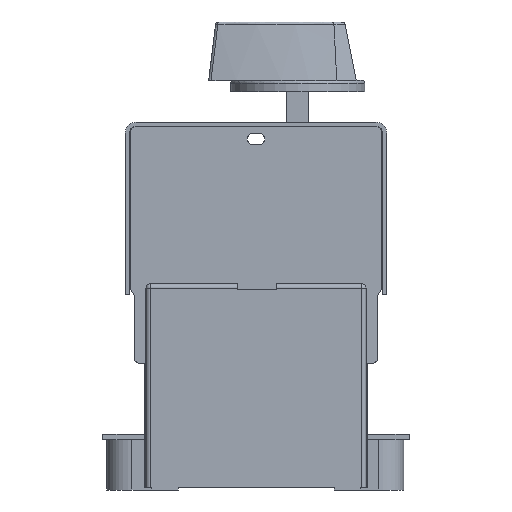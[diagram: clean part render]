
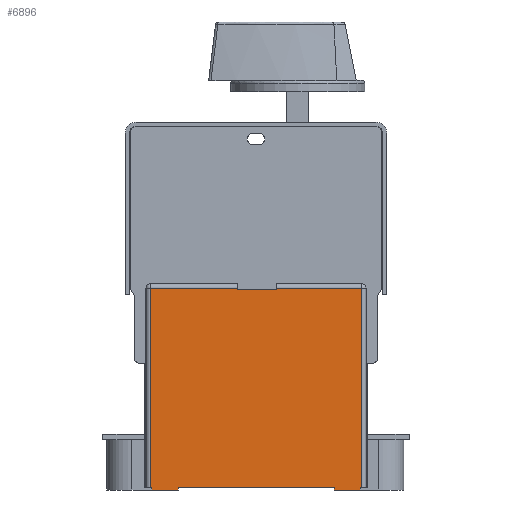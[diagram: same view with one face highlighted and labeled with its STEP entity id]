
A CAD part, left-side view. The second image highlights one B-rep face of the part: STEP entity #6896.
In plain terms, the highlighted planar face has unit normal (-1, 0, 0).
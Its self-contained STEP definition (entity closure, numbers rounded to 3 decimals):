
#738=PLANE('',#21475);
#1680=FACE_OUTER_BOUND('',#8703,.T.);
#3466=LINE('',#32194,#5560);
#3468=LINE('',#32200,#5562);
#3538=LINE('',#32512,#5632);
#3554=LINE('',#32592,#5648);
#3589=LINE('',#32691,#5683);
#3594=LINE('',#32703,#5688);
#3596=LINE('',#32706,#5690);
#3602=LINE('',#32719,#5696);
#3739=LINE('',#33003,#5833);
#3740=LINE('',#33007,#5834);
#3741=LINE('',#33008,#5835);
#3742=LINE('',#33010,#5836);
#3743=LINE('',#33012,#5837);
#3744=LINE('',#33013,#5838);
#3745=LINE('',#33014,#5839);
#3746=LINE('',#33016,#5840);
#5560=VECTOR('',#25911,1.);
#5562=VECTOR('',#25917,1.);
#5632=VECTOR('',#26205,1.);
#5648=VECTOR('',#26317,1.);
#5683=VECTOR('',#26422,1.);
#5688=VECTOR('',#26429,1.);
#5690=VECTOR('',#26433,1.);
#5696=VECTOR('',#26441,1.);
#5833=VECTOR('',#26694,1.);
#5834=VECTOR('',#26699,1.);
#5835=VECTOR('',#26700,1.);
#5836=VECTOR('',#26701,1.);
#5837=VECTOR('',#26702,1.);
#5838=VECTOR('',#26703,1.);
#5839=VECTOR('',#26704,1.);
#5840=VECTOR('',#26705,1.);
#6896=ADVANCED_FACE('',(#1680),#738,.F.);
#8703=EDGE_LOOP('',(#13824,#13825,#13826,#13827,#13828,#13829,#13830,#13831,
#13832,#13833,#13834,#13835,#13836,#13837,#13838,#13839));
#13824=ORIENTED_EDGE('',*,*,#19091,.F.);
#13825=ORIENTED_EDGE('',*,*,#18881,.T.);
#13826=ORIENTED_EDGE('',*,*,#18705,.T.);
#13827=ORIENTED_EDGE('',*,*,#19093,.F.);
#13828=ORIENTED_EDGE('',*,*,#18708,.T.);
#13829=ORIENTED_EDGE('',*,*,#18841,.T.);
#13830=ORIENTED_EDGE('',*,*,#19094,.T.);
#13831=ORIENTED_EDGE('',*,*,#19095,.T.);
#13832=ORIENTED_EDGE('',*,*,#19096,.F.);
#13833=ORIENTED_EDGE('',*,*,#18928,.F.);
#13834=ORIENTED_EDGE('',*,*,#18933,.T.);
#13835=ORIENTED_EDGE('',*,*,#19097,.T.);
#13836=ORIENTED_EDGE('',*,*,#18941,.F.);
#13837=ORIENTED_EDGE('',*,*,#18935,.F.);
#13838=ORIENTED_EDGE('',*,*,#19098,.T.);
#13839=ORIENTED_EDGE('',*,*,#19099,.T.);
#16093=VERTEX_POINT('',#32193);
#16094=VERTEX_POINT('',#32195);
#16096=VERTEX_POINT('',#32201);
#16097=VERTEX_POINT('',#32202);
#16185=VERTEX_POINT('',#32507);
#16186=VERTEX_POINT('',#32511);
#16232=VERTEX_POINT('',#32692);
#16233=VERTEX_POINT('',#32693);
#16237=VERTEX_POINT('',#32702);
#16238=VERTEX_POINT('',#32707);
#16239=VERTEX_POINT('',#32708);
#16242=VERTEX_POINT('',#32716);
#16333=VERTEX_POINT('',#33004);
#16334=VERTEX_POINT('',#33009);
#16335=VERTEX_POINT('',#33011);
#16336=VERTEX_POINT('',#33015);
#18705=EDGE_CURVE('',#16094,#16093,#3466,.T.);
#18708=EDGE_CURVE('',#16096,#16097,#3468,.T.);
#18841=EDGE_CURVE('',#16097,#16186,#3538,.T.);
#18881=EDGE_CURVE('',#16185,#16094,#3554,.T.);
#18928=EDGE_CURVE('',#16232,#16233,#3589,.T.);
#18933=EDGE_CURVE('',#16232,#16237,#3594,.T.);
#18935=EDGE_CURVE('',#16238,#16239,#3596,.T.);
#18941=EDGE_CURVE('',#16239,#16242,#3602,.T.);
#19091=EDGE_CURVE('',#16185,#16333,#3739,.T.);
#19093=EDGE_CURVE('',#16096,#16093,#3740,.T.);
#19094=EDGE_CURVE('',#16186,#16334,#3741,.T.);
#19095=EDGE_CURVE('',#16334,#16335,#3742,.T.);
#19096=EDGE_CURVE('',#16233,#16335,#3743,.T.);
#19097=EDGE_CURVE('',#16237,#16242,#3744,.T.);
#19098=EDGE_CURVE('',#16238,#16336,#3745,.T.);
#19099=EDGE_CURVE('',#16336,#16333,#3746,.T.);
#21475=AXIS2_PLACEMENT_3D('',#33017,#26706,#26707);
#25911=DIRECTION('',(0.,0.,-1.));
#25917=DIRECTION('',(0.,0.,1.));
#26205=DIRECTION('',(0.,1.,0.));
#26317=DIRECTION('',(0.,1.,0.));
#26422=DIRECTION('',(0.,1.,0.));
#26429=DIRECTION('',(0.,0.,1.));
#26433=DIRECTION('',(0.,1.,0.));
#26441=DIRECTION('',(0.,0.,1.));
#26694=DIRECTION('',(0.,0.,-1.));
#26699=DIRECTION('',(0.,-1.,0.));
#26700=DIRECTION('',(0.,0.,-1.));
#26701=DIRECTION('',(0.,-1.,0.));
#26702=DIRECTION('',(0.,0.,1.));
#26703=DIRECTION('',(0.,-1.,0.));
#26704=DIRECTION('',(0.,0.,1.));
#26705=DIRECTION('',(0.,-1.,0.));
#26706=DIRECTION('',(1.,0.,0.));
#26707=DIRECTION('',(0.,0.,-1.));
#32193=CARTESIAN_POINT('',(-69.,-31.985,67.));
#32194=CARTESIAN_POINT('',(-69.,-31.985,69.1));
#32195=CARTESIAN_POINT('',(-69.,-31.985,67.6));
#32200=CARTESIAN_POINT('',(-69.,-17.985,69.1));
#32201=CARTESIAN_POINT('',(-69.,-17.985,67.));
#32202=CARTESIAN_POINT('',(-69.,-17.985,67.6));
#32507=CARTESIAN_POINT('',(-69.,-62.735,67.6));
#32511=CARTESIAN_POINT('',(-69.,13.265,67.6));
#32512=CARTESIAN_POINT('',(-69.,13.265,67.6));
#32592=CARTESIAN_POINT('',(-69.,13.265,67.6));
#32691=CARTESIAN_POINT('',(-69.,3.265,-4.9));
#32692=CARTESIAN_POINT('',(-69.,3.265,-4.9));
#32693=CARTESIAN_POINT('',(-69.,12.765,-4.9));
#32702=CARTESIAN_POINT('',(-69.,3.265,-3.9));
#32703=CARTESIAN_POINT('',(-69.,3.265,-5.9));
#32706=CARTESIAN_POINT('',(-69.,-62.235,-4.9));
#32707=CARTESIAN_POINT('',(-69.,-62.235,-4.9));
#32708=CARTESIAN_POINT('',(-69.,-52.735,-4.9));
#32716=CARTESIAN_POINT('',(-69.,-52.735,-3.9));
#32719=CARTESIAN_POINT('',(-69.,-52.735,-5.9));
#33003=CARTESIAN_POINT('',(-69.,-62.735,69.1));
#33004=CARTESIAN_POINT('',(-69.,-62.735,-3.9));
#33007=CARTESIAN_POINT('',(-69.,12.765,67.));
#33008=CARTESIAN_POINT('',(-69.,13.265,69.1));
#33009=CARTESIAN_POINT('',(-69.,13.265,-3.9));
#33010=CARTESIAN_POINT('',(-69.,-62.235,-3.9));
#33011=CARTESIAN_POINT('',(-69.,12.765,-3.9));
#33012=CARTESIAN_POINT('',(-69.,12.765,-5.9));
#33013=CARTESIAN_POINT('',(-69.,-62.235,-3.9));
#33014=CARTESIAN_POINT('',(-69.,-62.235,-5.9));
#33015=CARTESIAN_POINT('',(-69.,-62.235,-3.9));
#33016=CARTESIAN_POINT('',(-69.,-62.235,-3.9));
#33017=CARTESIAN_POINT('',(-69.,-62.235,69.1));
